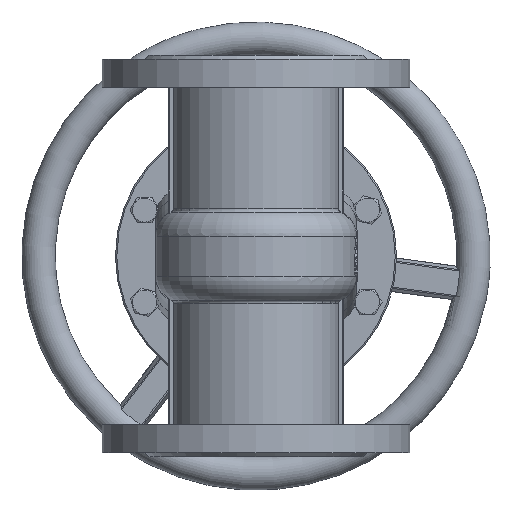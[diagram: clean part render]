
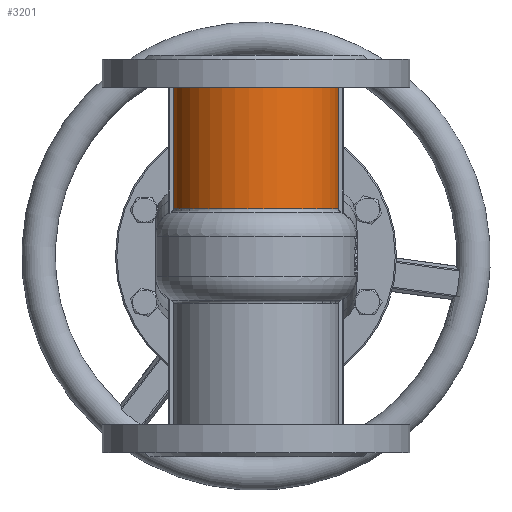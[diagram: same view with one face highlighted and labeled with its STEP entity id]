
A CAD part, front view. The second image highlights one B-rep face of the part: STEP entity #3201.
In plain terms, the highlighted cylindrical face has radius 62.5 mm (diameter 125 mm), a partial arc.
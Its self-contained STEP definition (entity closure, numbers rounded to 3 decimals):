
#3201=ADVANCED_FACE('',(#11253),#11255,.T.);
#11253=FACE_BOUND('',#11254,.T.);
#11254=EDGE_LOOP('',(#18878,#18879,#18880,#18881));
#11255=CYLINDRICAL_SURFACE('',#11256,62.5);
#11256=AXIS2_PLACEMENT_3D('',#11257,#11258,#11259);
#11257=CARTESIAN_POINT('',(0.,0.,95.));
#11258=DIRECTION('',(0.,0.,1.));
#11259=DIRECTION('',(1.,0.,0.));
#18878=ORIENTED_EDGE('',*,*,#22287,.F.);
#18879=ORIENTED_EDGE('',*,*,#22065,.T.);
#18880=ORIENTED_EDGE('',*,*,#22062,.T.);
#18881=ORIENTED_EDGE('',*,*,#22059,.F.);
#22059=EDGE_CURVE('',#24794,#24796,#24797,.F.);
#22062=EDGE_CURVE('',#24799,#24796,#24801,.T.);
#22065=EDGE_CURVE('',#24803,#24799,#24806,.T.);
#22287=EDGE_CURVE('',#24803,#24794,#25165,.T.);
#24794=VERTEX_POINT('',#34804);
#24796=VERTEX_POINT('',#34808);
#24797=LINE('',#34809,#34810);
#24799=VERTEX_POINT('',#34890);
#24801=CIRCLE('',#34966,62.5);
#24803=VERTEX_POINT('',#34971);
#24806=LINE('',#34978,#34979);
#25165=CIRCLE('',#38781,62.5);
#34804=CARTESIAN_POINT('',(61.695,-10.,126.));
#34808=CARTESIAN_POINT('',(61.695,-10.,35.463));
#34809=CARTESIAN_POINT('',(61.695,-10.,35.463));
#34810=VECTOR('',#34811,1.);
#34811=DIRECTION('',(0.,0.,1.));
#34890=CARTESIAN_POINT('',(-61.695,-10.,35.463));
#34966=AXIS2_PLACEMENT_3D('',#34967,#34968,#34969);
#34967=CARTESIAN_POINT('',(0.,0.,35.463));
#34968=DIRECTION('',(0.,0.,1.));
#34969=DIRECTION('',(-0.987,-0.16,0.));
#34971=CARTESIAN_POINT('',(-61.695,-10.,126.));
#34978=CARTESIAN_POINT('',(-61.695,-10.,126.));
#34979=VECTOR('',#34980,1.);
#34980=DIRECTION('',(0.,0.,-1.));
#38781=AXIS2_PLACEMENT_3D('',#38782,#38783,#38784);
#38782=CARTESIAN_POINT('',(0.,0.,126.));
#38783=DIRECTION('',(0.,0.,1.));
#38784=DIRECTION('',(-0.987,-0.16,0.));
